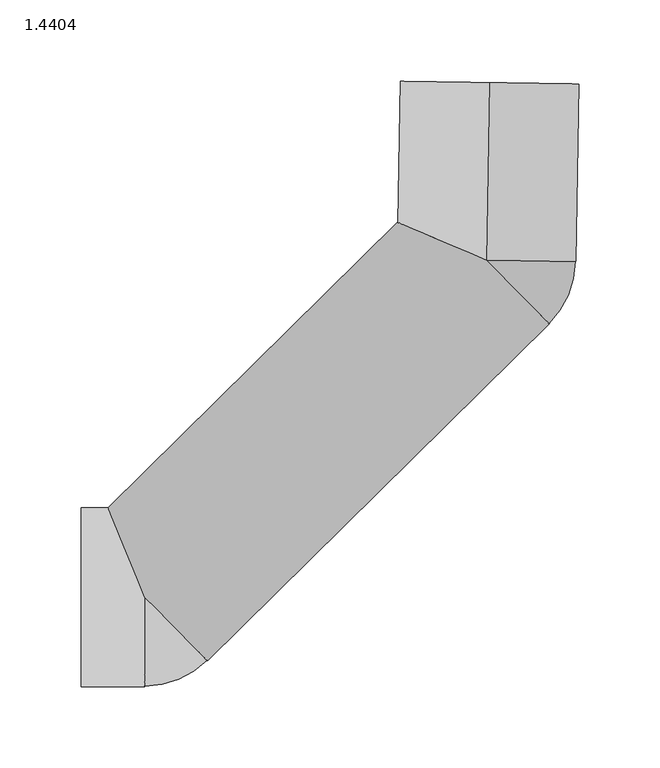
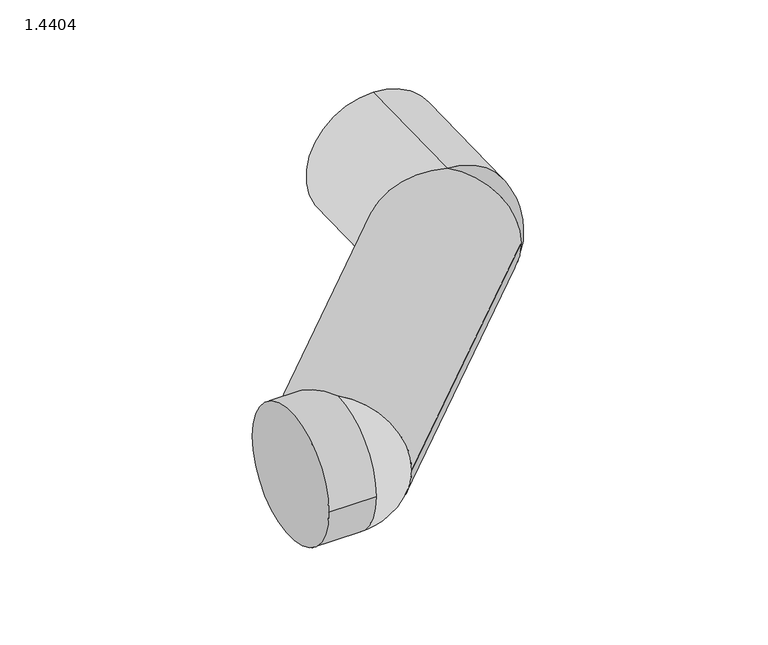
"""IFC4 building model written with IfcOpenShell, lengths in millimetres: pipe fitting geometry, PIF_ST_UN_ACO pipe long bend_ACO : 1.4404."""

from ifc_helpers import new_model, si_unit, point, frame, origin, place, context, project, spatial, circle_curve, ellipse_curve, trimmed, source, transform, mapped, element, save
from ifc_brep_helpers import plane_surface, cylinder_surface, revolved_surface, advanced_brep


def pipe_fitting_1_4404_3284edd7(model_context):
    return source(origin(), model_context, "Body", "AdvancedBrep", [
        advanced_brep(
        [(-168.4018776, -39.1814363, 0.0), (41.7027731, 167.7952802, 0.0), (3.1046507, 206.9767164, 55.0), (-51.5510933, 230.339589, 0.0), (-229.5405007, 55.0, 0.0), (-207.0, 0.0, 55.0), (-207.0, 0.0, -55.0), (3.1046507, 206.9767164, -55.0), (-246.0, -55.0, 0.0), (-246.0, 55.0, 0.0), (-207.0, -55.0, 0.0), (4.7394668, 315.964456, -55.0), (4.7394668, 315.964456, 55.0)],
        [
            (0, 1),
            (1, 2, circle_curve(frame((3.1046507, 206.9767164, 0.0), z_axis=(-0.7123897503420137, -0.7017840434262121, 0.0), x_axis=(-0.7017840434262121, 0.7123897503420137, 0.0)), 55.0)),
            (2, 3, ellipse_curve(frame((3.1046507, 206.9767164, 0.0), z_axis=(-0.39305186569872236, -0.9195163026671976, 0.0), x_axis=(-0.9195163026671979, 0.3930518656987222, 0.0)), 59.4396683, 55.0)),
            (3, 4),
            (4, 5, ellipse_curve(frame((-207.0, 0.0, 0.0), z_axis=(0.9253079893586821, 0.3792164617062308, 0.0), x_axis=(0.3792164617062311, -0.9253079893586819, 0.0)), 59.4396683, 55.0)),
            (5, 0, circle_curve(frame((-207.0, 0.0, 0.0), z_axis=(0.7123897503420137, 0.7017840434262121, 0.0), x_axis=(-0.7017840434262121, 0.7123897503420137, 0.0)), 55.0)),
            (0, 6, circle_curve(frame((-207.0, 0.0, 0.0), z_axis=(0.7123897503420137, 0.7017840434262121, 0.0), x_axis=(-0.7017840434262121, 0.7123897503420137, 0.0)), 55.0)),
            (6, 4, ellipse_curve(frame((-207.0, 0.0, 0.0), z_axis=(0.9253079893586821, 0.3792164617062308, 0.0), x_axis=(0.3792164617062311, -0.9253079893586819, 0.0)), 59.4396683, 55.0)),
            (3, 7, ellipse_curve(frame((3.1046507, 206.9767164, 0.0), z_axis=(-0.39305186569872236, -0.9195163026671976, 0.0), x_axis=(-0.9195163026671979, 0.3930518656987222, 0.0)), 59.4396683, 55.0)),
            (7, 1, circle_curve(frame((3.1046507, 206.9767164, 0.0), z_axis=(-0.7123897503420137, -0.7017840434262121, 0.0), x_axis=(-0.7017840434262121, 0.7123897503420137, 0.0)), 55.0)),
            (8, 9, circle_curve(frame((-246.0, 0.0, 0.0), z_axis=(-1.0, 0.0, 0.0), x_axis=(0.0, 1.0, 0.0)), 55.0)),
            (9, 8, circle_curve(frame((-246.0, 0.0, 0.0), z_axis=(-1.0, 0.0, 0.0), x_axis=(0.0, 1.0, 0.0)), 55.0)),
            (9, 4),
            (6, 10, circle_curve(frame((-207.0, 0.0, 0.0), z_axis=(-1.0, 0.0, 0.0), x_axis=(0.0, 1.0, 0.0)), 55.0)),
            (10, 8),
            (10, 5, circle_curve(frame((-207.0, 0.0, 0.0), z_axis=(-1.0, 0.0, 0.0), x_axis=(0.0, 1.0, 0.0)), 55.0)),
            (11, 12, circle_curve(frame((4.7394668, 315.964456, 0.0), z_axis=(0.01499831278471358, 0.9998875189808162, 0.0), x_axis=(0.0, 0.0, 1.0)), 55.0)),
            (12, 11, circle_curve(frame((4.7394668, 315.964456, 0.0), z_axis=(0.01499831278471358, 0.9998875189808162, 0.0), x_axis=(0.0, 0.0, 1.0)), 55.0)),
            (11, 7),
            (2, 12),
            (2, 7, circle_curve(frame((3.1046507, 206.9767164, 0.0), z_axis=(0.01499831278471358, 0.9998875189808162, 0.0), x_axis=(0.0, 0.0, 1.0)), 55.0)),
        ],
        [
            cylinder_surface(frame((-207.0, 0.0, 0.0), z_axis=(-0.7123897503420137, -0.7017840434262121, 0.0), x_axis=(-0.7017840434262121, 0.7123897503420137, 0.0)), 55.0),
            plane_surface(frame((-246.0, 55.0, 0.0), z_axis=(-1.0, 0.0, 0.0), x_axis=(0.0, 0.0, -1.0))),
            cylinder_surface(frame((-246.0, 0.0, 0.0), z_axis=(1.0, 0.0, 0.0), x_axis=(0.0, 1.0, 0.0)), 55.0),
            revolved_surface(trimmed(ellipse_curve(frame((-207.0, 0.0, 0.0), z_axis=(1.0, 0.0, 0.0), x_axis=(0.0, 1.0, 0.0)), 55.0, 55.0), [point((-207.0, 0.0, 55.0))], [point((-207.0, 0.0, -55.0))], True, "CARTESIAN"), (-207.0, 0.0, -83.4043214), (0.0, 0.0, -1.0)),
            plane_surface(frame((4.7394668, 315.964456, 55.0), z_axis=(0.014998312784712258, 0.9998875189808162, 0.0), x_axis=(0.9998875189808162, -0.014998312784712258, 0.0))),
            cylinder_surface(frame((4.7394668, 315.964456, 0.0), z_axis=(-0.01499831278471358, -0.9998875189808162, 0.0), x_axis=(0.0, 0.0, 1.0)), 55.0),
            revolved_surface(trimmed(ellipse_curve(frame((3.1046507, 206.9767164, 0.0), z_axis=(-0.01499831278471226, -0.9998875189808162, 0.0), x_axis=(0.0, 0.0, 1.0)), 55.0, 55.0), [point((3.1046507, 206.9767164, -55.0))], [point((3.1046507, 206.9767164, 55.0))], True, "CARTESIAN"), (3.1046507, 206.9767164, -91.5906933), (0.0, 0.0, 1.0)),
        ],
        [
            (0, [[1, 2, 3, 4, 5, 6]]),
            (0, [[-1, 7, 8, -4, 9, 10]]),
            (1, [[11, 12]]),
            (2, [[-12, 13, -8, 14, 15]]),
            (2, [[-11, -15, 16, -5, -13]]),
            (3, [[-6, -16, -14, -7]]),
            (4, [[17, 18]]),
            (5, [[-17, 19, -9, -3, 20]]),
            (5, [[-18, -20, 21, -19]]),
            (6, [[-2, -10, -21]]),
        ],
    ),
    ])


if __name__ == "__main__":
    model = new_model("IFC4")
    model_context = context("Model", 3, world=origin())
    ifc_project = project(units=[si_unit("LENGTHUNIT", "METRE", prefix="MILLI")], contexts=[model_context])
    site = spatial("IfcSite", under=ifc_project)
    building = spatial("IfcBuilding", under=site)
    placement = place(None, origin())
    pipe_fitting_1_4404_shape = pipe_fitting_1_4404_3284edd7(model_context)
    element("IfcPipeFitting", 1, ObjectType="PIF_ST_UN_ACO pipe long bend_ACO : 1.4404", at=placement, inside=building, context=model_context, shape_type="MappedRepresentation", body=[
        mapped(pipe_fitting_1_4404_shape, transform((0.0, 0.0, 0.0), x_axis=(1.0, 0.0, 0.0), y_axis=(0.0, 1.0, 0.0), z_axis=(0.0, 0.0, 1.0))),
    ])
    save(model, "model.ifc")
